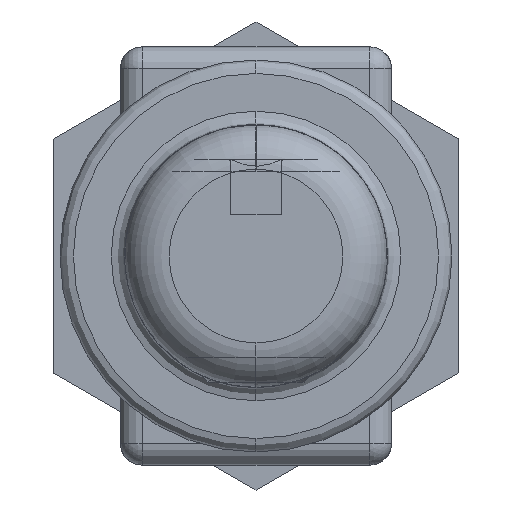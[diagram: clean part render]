
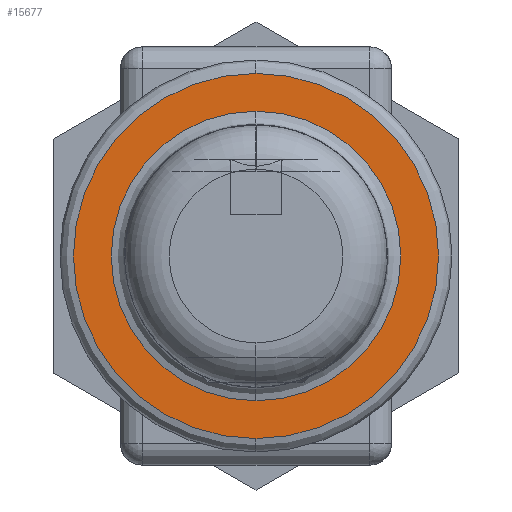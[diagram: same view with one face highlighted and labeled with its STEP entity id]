
A CAD part, left-side view. The second image highlights one B-rep face of the part: STEP entity #15677.
In plain terms, the highlighted planar face has unit normal (-1, 0, 0).
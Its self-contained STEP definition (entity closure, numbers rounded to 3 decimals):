
#1438 = PLANE ( 'NONE',  #10818 ) ;
#2011 = CIRCLE ( 'NONE', #19346, 4.1 ) ;
#2906 = VERTEX_POINT ( 'NONE', #16053 ) ;
#3544 = FACE_OUTER_BOUND ( 'NONE', #20410, .T. ) ;
#3991 = EDGE_CURVE ( 'NONE', #17262, #2906, #20616, .T. ) ;
#4556 = DIRECTION ( 'NONE',  ( 0., 0., 1. ) ) ;
#5723 = DIRECTION ( 'NONE',  ( 0., 0., 1. ) ) ;
#6710 = CIRCLE ( 'NONE', #15290, 3.25 ) ;
#7014 = DIRECTION ( 'NONE',  ( 1., 0., 0. ) ) ;
#7166 = DIRECTION ( 'NONE',  ( 0., 0., -1. ) ) ;
#7619 = CARTESIAN_POINT ( 'NONE',  ( -206.247, 0., 0. ) ) ;
#8214 = VERTEX_POINT ( 'NONE', #11435 ) ;
#8920 = EDGE_CURVE ( 'NONE', #2906, #17262, #6710, .T. ) ;
#9953 = DIRECTION ( 'NONE',  ( -1., 0., 0. ) ) ;
#10818 = AXIS2_PLACEMENT_3D ( 'NONE', #17984, #7014, #7166 ) ;
#11030 = ORIENTED_EDGE ( 'NONE', *, *, #8920, .F. ) ;
#11435 = CARTESIAN_POINT ( 'NONE',  ( -206.247, 0., 4.1 ) ) ;
#11527 = AXIS2_PLACEMENT_3D ( 'NONE', #21098, #21018, #4556 ) ;
#11581 = VERTEX_POINT ( 'NONE', #22043 ) ;
#11861 = ORIENTED_EDGE ( 'NONE', *, *, #14101, .T. ) ;
#12528 = CARTESIAN_POINT ( 'NONE',  ( -206.247, 0., 3.25 ) ) ;
#12796 = EDGE_LOOP ( 'NONE', ( #17960, #11030 ) ) ;
#13704 = DIRECTION ( 'NONE',  ( -1., 0., 0. ) ) ;
#14101 = EDGE_CURVE ( 'NONE', #8214, #11581, #15644, .T. ) ;
#15290 = AXIS2_PLACEMENT_3D ( 'NONE', #15480, #13704, #22798 ) ;
#15480 = CARTESIAN_POINT ( 'NONE',  ( -206.247, 0., 0. ) ) ;
#15644 = CIRCLE ( 'NONE', #21376, 4.1 ) ;
#15675 = DIRECTION ( 'NONE',  ( 0., 0., 1. ) ) ;
#15677 = ADVANCED_FACE ( 'NONE', ( #16737, #3544 ), #1438, .F. ) ;
#16053 = CARTESIAN_POINT ( 'NONE',  ( -206.247, 0., -3.25 ) ) ;
#16737 = FACE_BOUND ( 'NONE', #12796, .T. ) ;
#17262 = VERTEX_POINT ( 'NONE', #12528 ) ;
#17496 = CARTESIAN_POINT ( 'NONE',  ( -206.247, 0., 0. ) ) ;
#17960 = ORIENTED_EDGE ( 'NONE', *, *, #3991, .F. ) ;
#17984 = CARTESIAN_POINT ( 'NONE',  ( -206.247, 4.1, 0. ) ) ;
#19346 = AXIS2_PLACEMENT_3D ( 'NONE', #7619, #20402, #5723 ) ;
#20402 = DIRECTION ( 'NONE',  ( -1., 0., 0. ) ) ;
#20410 = EDGE_LOOP ( 'NONE', ( #11861, #20900 ) ) ;
#20616 = CIRCLE ( 'NONE', #11527, 3.25 ) ;
#20900 = ORIENTED_EDGE ( 'NONE', *, *, #21445, .T. ) ;
#21018 = DIRECTION ( 'NONE',  ( -1., 0., 0. ) ) ;
#21098 = CARTESIAN_POINT ( 'NONE',  ( -206.247, 0., 0. ) ) ;
#21376 = AXIS2_PLACEMENT_3D ( 'NONE', #17496, #9953, #15675 ) ;
#21445 = EDGE_CURVE ( 'NONE', #11581, #8214, #2011, .T. ) ;
#22043 = CARTESIAN_POINT ( 'NONE',  ( -206.247, 0., -4.1 ) ) ;
#22798 = DIRECTION ( 'NONE',  ( 0., 0., 1. ) ) ;
